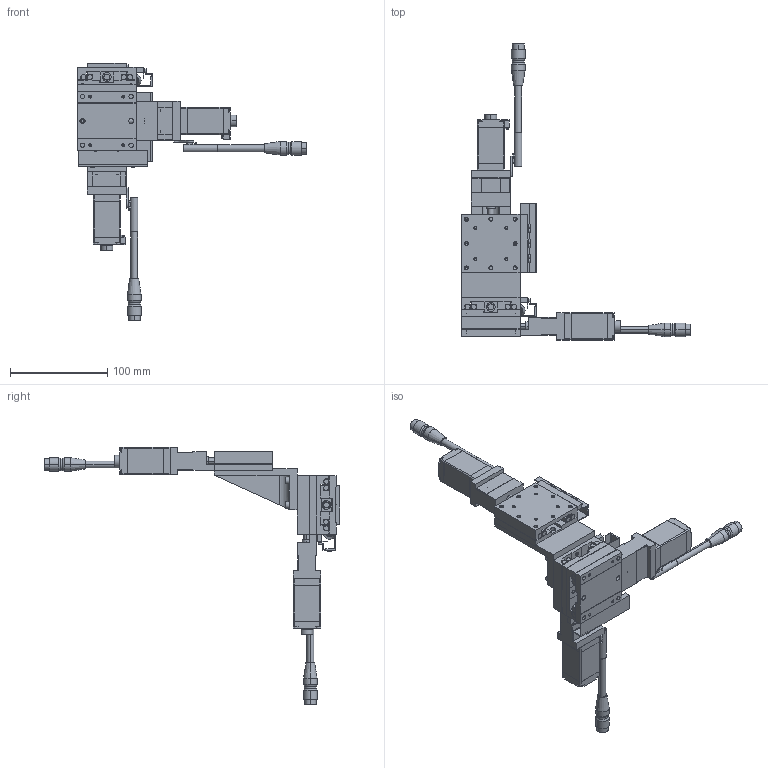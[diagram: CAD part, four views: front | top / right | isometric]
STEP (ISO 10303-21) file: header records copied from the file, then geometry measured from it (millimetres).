
FILE_DESCRIPTION(('STEP AP203'),'1');
FILE_NAME('C:/3D-Trans/3D_PMZG615T-R□-D+240129.step','2024-03-14T04:54:35',(' '),(' '),'Spatial InterOp 3D',' ',' ');
FILE_SCHEMA(('CONFIG_CONTROL_DESIGN'));
Length unit declared in the file: millimetre
Products named in the file (19): 1; 2; 3; 4; 5; 6; 7; 8; 9; 10; 11; 12; 13; 14; 15; 16; 17; 18; 19
Bounding box: 235 x 304 x 264 mm (x, y, z)
Volume: 465702.6 mm3; surface area: 186602.9 mm2
Topology: 19 solids, 19 shells, 2021 faces, 5059 edges, 3204 vertices
Faces by surface type: plane 1142, cylinder 661, cone 218
Entity records: 60727 total; most frequent: DIRECTION 10685, CARTESIAN_POINT 10261, ORIENTED_EDGE 9998, EDGE_CURVE 4999, AXIS2_PLACEMENT_3D 3652, LINE 3381, VECTOR 3381, VERTEX_POINT 3204
